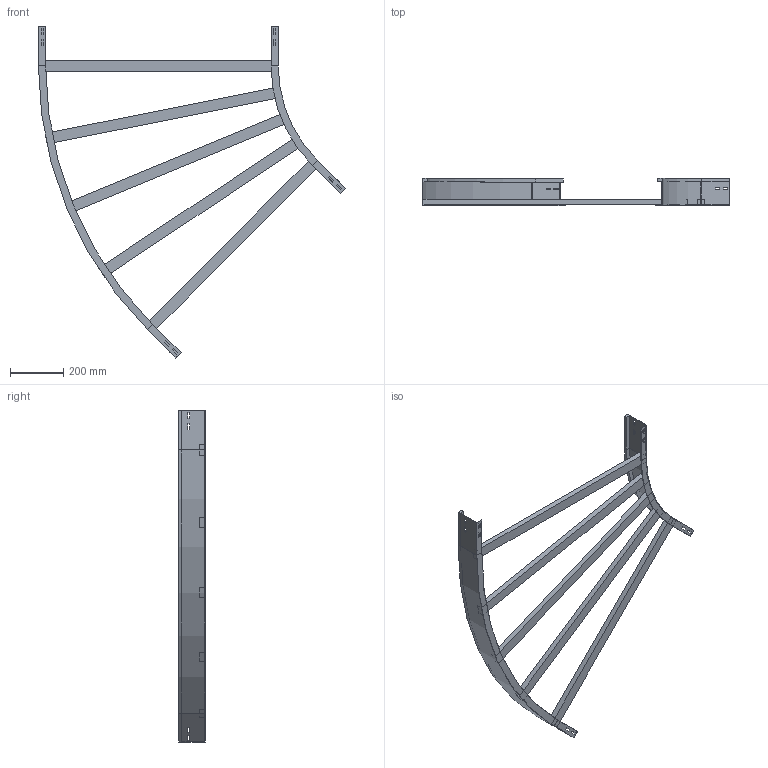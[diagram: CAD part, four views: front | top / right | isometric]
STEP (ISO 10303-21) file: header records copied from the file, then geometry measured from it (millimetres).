
FILE_DESCRIPTION (( 'STEP AP214' ), '1' );
FILE_NAME ('11B5D900.step', '2025-02-21T15:12:08', ( '' ), ( '' ), 'SwSTEP 2.0', 'SolidWorks 2023', '' );
FILE_SCHEMA (( 'AUTOMOTIVE_DESIGN' ));
Length unit declared in the file: millimetre
Products named in the file (4): 11B5D900; TRAVERSINO_900; A2_LONGH.ESTERNO 45°_H100_R500+900; A2_LONGH.INTERNO 45°_H100_R500
Assembly tree (7 placements, depth 2):
  11B5D900
    A2_LONGH.INTERNO 45°_H100_R500
    A2_LONGH.ESTERNO 45°_H100_R500+900
    TRAVERSINO_900  x5
Bounding box: 1152.51 x 100 x 1246.02 mm (x, y, z)
Volume: 4548649.4 mm3; surface area: 1147261.4 mm2
Topology: 7 solids, 7 shells, 146 faces, 364 edges, 232 vertices
Faces by surface type: plane 138, cylinder 8
Entity records: 3837 total; most frequent: CARTESIAN_POINT 648, ORIENTED_EDGE 632, DIRECTION 596, EDGE_CURVE 316, LINE 300, VECTOR 300, VERTEX_POINT 200, EDGE_LOOP 154
